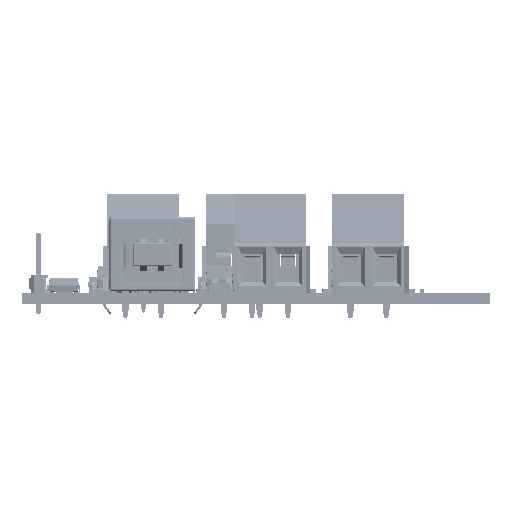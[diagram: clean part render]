
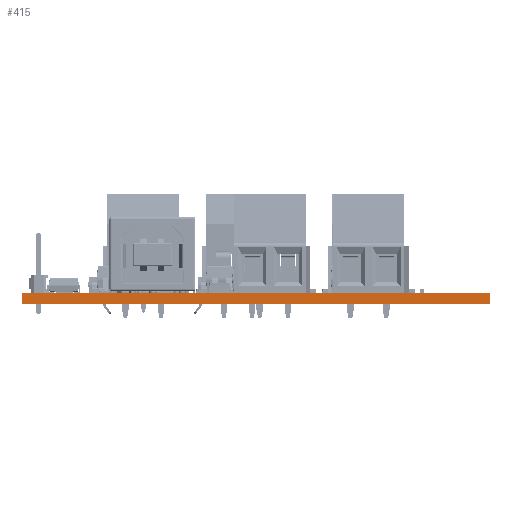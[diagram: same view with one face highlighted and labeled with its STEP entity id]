
A CAD part, front view. The second image highlights one B-rep face of the part: STEP entity #415.
In plain terms, the highlighted planar face has unit normal (0, -1, 0).
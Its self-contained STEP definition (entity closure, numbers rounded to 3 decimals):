
#390 = VERTEX_POINT('',#391);
#391 = CARTESIAN_POINT('',(66.157,-85.237,
    1.6));
#397 = EDGE_CURVE('',#398,#390,#400,.T.);
#398 = VERTEX_POINT('',#399);
#399 = CARTESIAN_POINT('',(66.157,-85.237,0.));
#400 = LINE('',#401,#402);
#401 = CARTESIAN_POINT('',(66.157,-85.237,0.));
#402 = VECTOR('',#403,1.);
#403 = DIRECTION('',(0.,0.,1.));
#415 = ADVANCED_FACE('',(#416),#441,.T.);
#416 = FACE_BOUND('',#417,.T.);
#417 = EDGE_LOOP('',(#418,#419,#427,#435));
#418 = ORIENTED_EDGE('',*,*,#397,.T.);
#419 = ORIENTED_EDGE('',*,*,#420,.T.);
#420 = EDGE_CURVE('',#390,#421,#423,.T.);
#421 = VERTEX_POINT('',#422);
#422 = CARTESIAN_POINT('',(-0.217,-85.237,1.6)
  );
#423 = LINE('',#424,#425);
#424 = CARTESIAN_POINT('',(66.157,-85.237,
    1.6));
#425 = VECTOR('',#426,1.);
#426 = DIRECTION('',(-1.,0.,0.));
#427 = ORIENTED_EDGE('',*,*,#428,.F.);
#428 = EDGE_CURVE('',#429,#421,#431,.T.);
#429 = VERTEX_POINT('',#430);
#430 = CARTESIAN_POINT('',(-0.217,-85.237,0.));
#431 = LINE('',#432,#433);
#432 = CARTESIAN_POINT('',(-0.217,-85.237,0.));
#433 = VECTOR('',#434,1.);
#434 = DIRECTION('',(0.,0.,1.));
#435 = ORIENTED_EDGE('',*,*,#436,.F.);
#436 = EDGE_CURVE('',#398,#429,#437,.T.);
#437 = LINE('',#438,#439);
#438 = CARTESIAN_POINT('',(66.157,-85.237,0.));
#439 = VECTOR('',#440,1.);
#440 = DIRECTION('',(-1.,0.,0.));
#441 = PLANE('',#442);
#442 = AXIS2_PLACEMENT_3D('',#443,#444,#445);
#443 = CARTESIAN_POINT('',(66.157,-85.237,0.));
#444 = DIRECTION('',(0.,-1.,0.));
#445 = DIRECTION('',(-1.,0.,0.));
